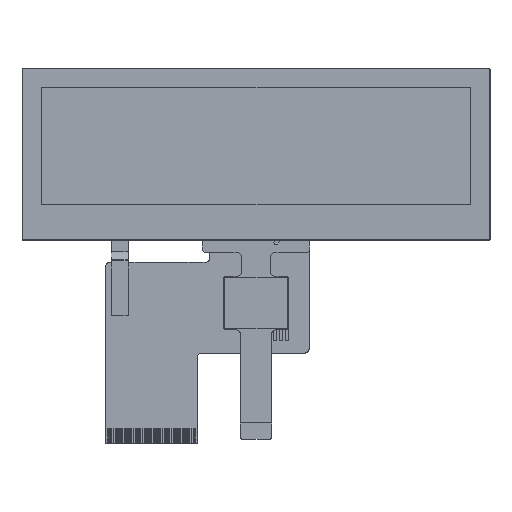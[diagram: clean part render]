
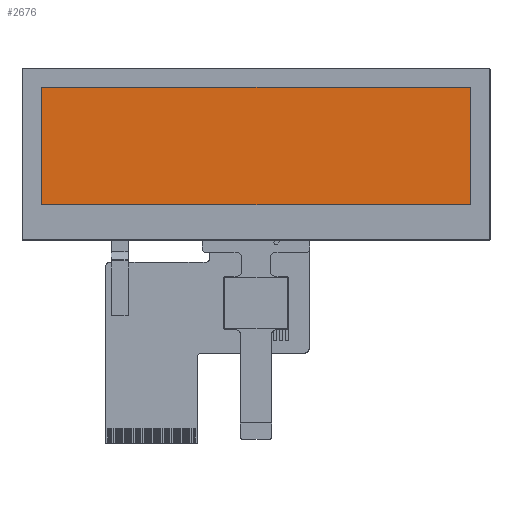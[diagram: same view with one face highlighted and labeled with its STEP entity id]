
A CAD part, top view. The second image highlights one B-rep face of the part: STEP entity #2676.
In plain terms, the highlighted planar face has unit normal (0, 0, 1).
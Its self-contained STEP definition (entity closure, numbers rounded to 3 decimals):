
#191 = DIRECTION ( 'NONE',  ( 0., 1., 0. ) ) ;
#544 = DIRECTION ( 'NONE',  ( -1., 0., 0. ) ) ;
#556 = VERTEX_POINT ( 'NONE', #7213 ) ;
#1132 = VECTOR ( 'NONE', #4276, 1000. ) ;
#1270 = DIRECTION ( 'NONE',  ( 1., 0., 0. ) ) ;
#1795 = VERTEX_POINT ( 'NONE', #3472 ) ;
#1973 = EDGE_CURVE ( 'NONE', #556, #10482, #10786, .T. ) ;
#2084 = CARTESIAN_POINT ( 'NONE',  ( -12.483, 86.659, 89.44 ) ) ;
#2676 = ADVANCED_FACE ( 'NONE', ( #8640 ), #16001, .T. ) ;
#2679 = VECTOR ( 'NONE', #1270, 1000. ) ;
#3472 = CARTESIAN_POINT ( 'NONE',  ( 83.557, 60.319, 89.44 ) ) ;
#3505 = EDGE_CURVE ( 'NONE', #10482, #4307, #6868, .T. ) ;
#4276 = DIRECTION ( 'NONE',  ( 0., -1., 0. ) ) ;
#4307 = VERTEX_POINT ( 'NONE', #14419 ) ;
#5078 = EDGE_CURVE ( 'NONE', #1795, #556, #7599, .T. ) ;
#6785 = CARTESIAN_POINT ( 'NONE',  ( 83.557, 86.659, 89.44 ) ) ;
#6868 = LINE ( 'NONE', #8271, #1132 ) ;
#7152 = DIRECTION ( 'NONE',  ( 1., 0., 0. ) ) ;
#7213 = CARTESIAN_POINT ( 'NONE',  ( 83.557, 86.659, 89.44 ) ) ;
#7542 = ORIENTED_EDGE ( 'NONE', *, *, #5078, .T. ) ;
#7599 = LINE ( 'NONE', #7763, #11027 ) ;
#7763 = CARTESIAN_POINT ( 'NONE',  ( 83.557, 60.319, 89.44 ) ) ;
#7825 = EDGE_CURVE ( 'NONE', #4307, #1795, #8988, .T. ) ;
#8271 = CARTESIAN_POINT ( 'NONE',  ( -12.483, 86.659, 89.44 ) ) ;
#8351 = EDGE_LOOP ( 'NONE', ( #10337, #12379, #7542, #9581 ) ) ;
#8640 = FACE_OUTER_BOUND ( 'NONE', #8351, .T. ) ;
#8722 = DIRECTION ( 'NONE',  ( 0., 0., 1. ) ) ;
#8988 = LINE ( 'NONE', #12679, #2679 ) ;
#9581 = ORIENTED_EDGE ( 'NONE', *, *, #1973, .T. ) ;
#9717 = CARTESIAN_POINT ( 'NONE',  ( 35.537, 71.674, 89.44 ) ) ;
#10337 = ORIENTED_EDGE ( 'NONE', *, *, #3505, .T. ) ;
#10482 = VERTEX_POINT ( 'NONE', #2084 ) ;
#10588 = VECTOR ( 'NONE', #544, 1000. ) ;
#10786 = LINE ( 'NONE', #6785, #10588 ) ;
#11027 = VECTOR ( 'NONE', #191, 1000. ) ;
#11191 = AXIS2_PLACEMENT_3D ( 'NONE', #9717, #8722, #7152 ) ;
#12379 = ORIENTED_EDGE ( 'NONE', *, *, #7825, .T. ) ;
#12679 = CARTESIAN_POINT ( 'NONE',  ( -12.483, 60.319, 89.44 ) ) ;
#14419 = CARTESIAN_POINT ( 'NONE',  ( -12.483, 60.319, 89.44 ) ) ;
#16001 = PLANE ( 'NONE',  #11191 ) ;
